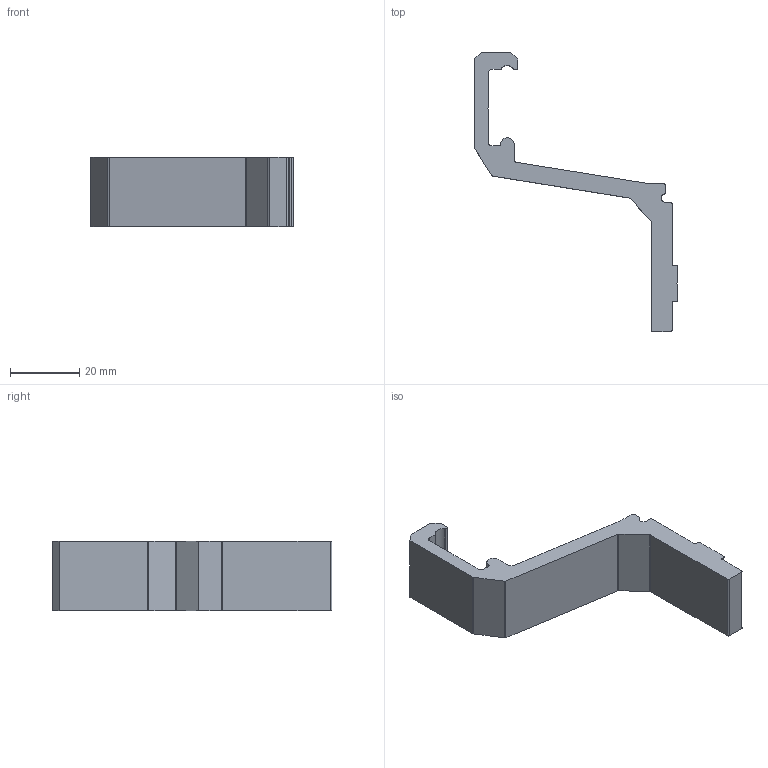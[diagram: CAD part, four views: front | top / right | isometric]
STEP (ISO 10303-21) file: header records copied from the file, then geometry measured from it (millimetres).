
FILE_DESCRIPTION (( 'STEP AP214' ), '1' );
FILE_NAME ('FGRB 53x42.step', '2017-04-05T07:39:04', ( '' ), ( '' ), 'SwSTEP 2.0', 'SolidWorks 2015', '' );
FILE_SCHEMA (( 'AUTOMOTIVE_DESIGN' ));
Length unit declared in the file: millimetre
Products named in the file (1): FGRB 53x42
Bounding box: 58.5 x 80.7 x 20 mm (x, y, z)
Volume: 14155.8 mm3; surface area: 6949 mm2
Topology: 1 solids, 1 shells, 57 faces, 165 edges, 110 vertices
Faces by surface type: plane 33, cylinder 24
Entity records: 1921 total; most frequent: CARTESIAN_POINT 333, ORIENTED_EDGE 330, DIRECTION 329, EDGE_CURVE 165, VECTOR 117, LINE 117, VERTEX_POINT 110, AXIS2_PLACEMENT_3D 106
